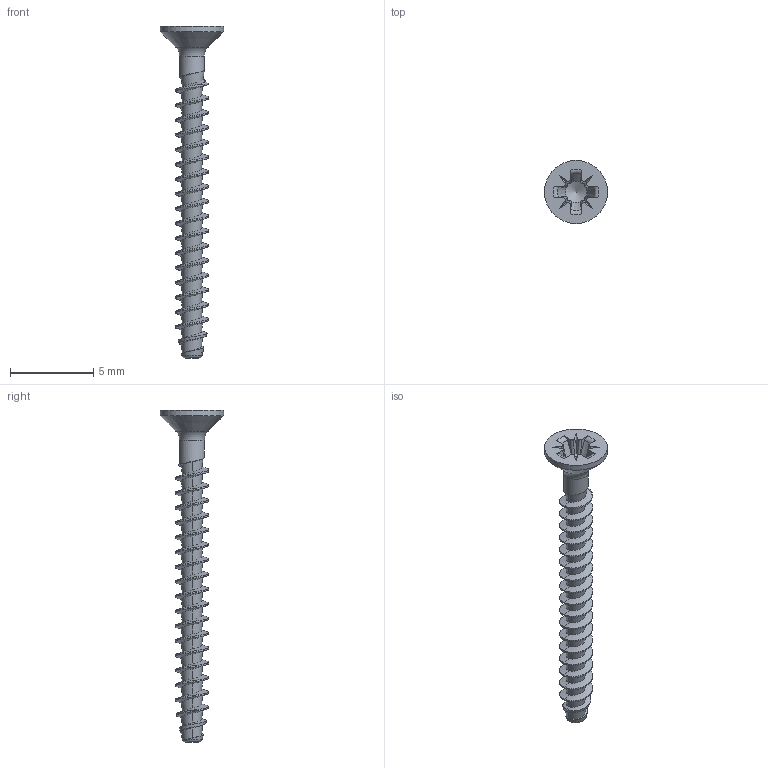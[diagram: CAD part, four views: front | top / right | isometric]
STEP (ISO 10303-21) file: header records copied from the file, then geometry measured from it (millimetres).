
FILE_DESCRIPTION(/* description */ (''),/* implementation_level */ '2;1');
FILE_NAME(/* name */ 'KN1033-STS-20x20-Z1.step',/* time_stamp */ '2017-10-20T11:29:00+02:00',/* author */ (''),/* organization */ (''),/* preprocessor_version */ 'ST-DEVELOPER v16',/* originating_system */ 'SIEMENS PLM Software NX 10.0',/* authorisation */ '');
FILE_SCHEMA (('AUTOMOTIVE_DESIGN { 1 0 10303 214 3 1 1 1 }'));
Length unit declared in the file: millimetre
Products named in the file (1): KN1033-STS-20x20-Z1
Bounding box: 3.8 x 3.8 x 20 mm (x, y, z)
Volume: 37.2 mm3; surface area: 170.1 mm2
Topology: 1 solids, 1 shells, 112 faces, 285 edges, 175 vertices
Faces by surface type: bspline 60, plane 26, cylinder 12, cone 8, torus 6
Full cylindrical faces by diameter (mm): 1.5 x1, 3.8 x1
Entity records: 7046 total; most frequent: CARTESIAN_POINT 4833, ORIENTED_EDGE 544, DIRECTION 275, EDGE_CURVE 272, VERTEX_POINT 170, B_SPLINE_CURVE_WITH_KNOTS 130, EDGE_LOOP 117, LINE 113
